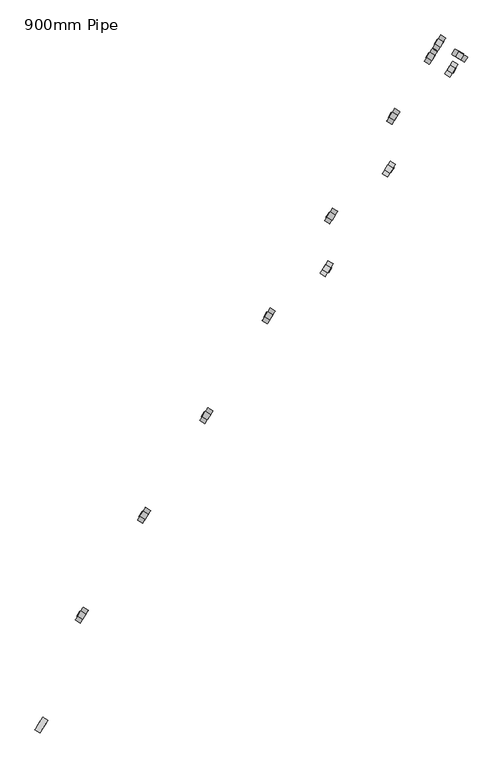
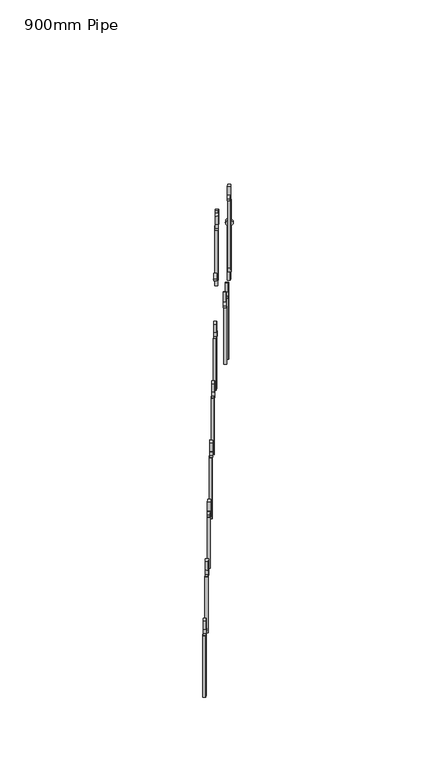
"""IFC4 building model written with IfcOpenShell, lengths in millimetres: railing geometry, 900mm Pipe."""

from ifc_helpers import new_model, si_unit, point, frame, frame_2d, origin, place, context, project, spatial, polyline, circle_curve, trimmed, segment, composite_curve, outline, extrude, source, transform, mapped, element, save


def railing_900mm_pipe_e0949c61(model_context):
    return source(origin(), model_context, "Body", "SweptSolid", [
        extrude(outline(composite_curve([segment(trimmed(circle_curve(frame_2d((0.0, -31.75)), 31.75), [point((0.0, -63.5))], [point((0.0, 0.0))], False, "CARTESIAN"), True, "CONTINUOUS"), segment(trimmed(circle_curve(frame_2d((0.0, -31.75)), 31.75), [point((0.0, 0.0))], [point((0.0, -63.5))], False, "CARTESIAN"), True, "CONTINUOUS")], self_intersect=False), holes=[composite_curve([segment(trimmed(circle_curve(frame_2d((0.0, -31.75)), 12.7), [point((0.0, -44.45))], [point((0.0, -19.05))], True, "CARTESIAN"), True, "CONTINUOUS"), segment(trimmed(circle_curve(frame_2d((0.0, -31.75)), 12.7), [point((0.0, -19.05))], [point((0.0, -44.45))], True, "CARTESIAN"), True, "CONTINUOUS")], self_intersect=False)]), frame((47195.2119075, -51385.7704072, 6599.35), z_axis=(-0.8480480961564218, 0.5299192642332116, 0.0), x_axis=(0.0, 0.0, 1.0)), (0.0, 0.0, 1.0), 25.4),
        extrude(outline(polyline([(47167.9515703, -51387.4557151), (47189.4919919, -51400.9156644), (47176.0320426, -51422.4560861), (47154.491621, -51408.9961368), (47167.9515703, -51387.4557151)])), frame((0.0, 0.0, 6000.0), z_axis=(0.0, 0.0, 1.0), x_axis=(1.0, 0.0, 0.0)), (0.0, 0.0, 1.0), 567.6),
        extrude(outline(polyline([(317.5, 0.0), (317.5, -25.4), (234.95, -25.4), (222.25, 0.0), (317.5, 0.0)])), frame((47171.6569962, -51423.4661451, 6948.6), z_axis=(-0.8480480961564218, 0.5299192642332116, 0.0), x_axis=(0.0, 0.0, -1.0)), (0.0, 0.0, 1.0), 25.4),
        extrude(outline(composite_curve([segment(trimmed(circle_curve(frame_2d((0.0, -31.75)), 31.75), [point((0.0, -63.5))], [point((0.0, 0.0))], False, "CARTESIAN"), True, "CONTINUOUS"), segment(trimmed(circle_curve(frame_2d((0.0, -31.75)), 31.75), [point((0.0, 0.0))], [point((0.0, -63.5))], False, "CARTESIAN"), True, "CONTINUOUS")], self_intersect=False), holes=[composite_curve([segment(trimmed(circle_curve(frame_2d((0.0, -31.75)), 12.7), [point((0.0, -44.4499999))], [point((0.0, -19.05))], True, "CARTESIAN"), True, "CONTINUOUS"), segment(trimmed(circle_curve(frame_2d((0.0, -31.75)), 12.7), [point((0.0, -19.05))], [point((0.0, -44.4499999))], True, "CARTESIAN"), True, "CONTINUOUS")], self_intersect=False)]), frame((47460.1715397, -50961.7463592, 6349.35), z_axis=(-0.8480480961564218, 0.5299192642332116, 0.0), x_axis=(0.0, 0.0, 1.0)), (0.0, 0.0, 1.0), 25.4),
        extrude(outline(polyline([(47432.9112024, -50963.431667), (47454.451624, -50976.8916164), (47440.9916747, -50998.432038), (47419.4512531, -50984.9720887), (47432.9112024, -50963.431667)])), frame((0.0, 0.0, 5700.0), z_axis=(0.0, 0.0, 1.0), x_axis=(1.0, 0.0, 0.0)), (0.0, 0.0, 1.0), 617.6),
        extrude(outline(polyline([(317.5, 0.0), (317.5, -25.4), (234.95, -25.4), (222.25, 0.0), (317.5, 0.0)])), frame((47436.6166284, -50999.442097, 6698.6), z_axis=(-0.8480480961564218, 0.5299192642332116, 0.0), x_axis=(0.0, 0.0, -1.0)), (0.0, 0.0, 1.0), 25.4),
        extrude(outline(composite_curve([segment(trimmed(circle_curve(frame_2d((0.0, -31.75)), 31.75), [point((0.0, -63.5))], [point((0.0, 0.0))], False, "CARTESIAN"), True, "CONTINUOUS"), segment(trimmed(circle_curve(frame_2d((0.0, -31.75)), 31.75), [point((0.0, 0.0))], [point((0.0, -63.5))], False, "CARTESIAN"), True, "CONTINUOUS")], self_intersect=False), holes=[composite_curve([segment(trimmed(circle_curve(frame_2d((0.0, -31.75)), 12.7), [point((0.0, -44.4499999))], [point((0.0, -19.05))], True, "CARTESIAN"), True, "CONTINUOUS"), segment(trimmed(circle_curve(frame_2d((0.0, -31.75)), 12.7), [point((0.0, -19.05))], [point((0.0, -44.4499999))], True, "CARTESIAN"), True, "CONTINUOUS")], self_intersect=False)]), frame((47445.6493685, -50791.7140474, 5799.35), z_axis=(-0.8480480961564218, 0.5299192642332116, 0.0), x_axis=(0.0, 0.0, -1.0)), (0.0, 0.0, 1.0), 25.4),
        extrude(outline(polyline([(47451.3692841, -50776.5687902), (47429.8288625, -50763.1088409), (47443.2888118, -50741.5684193), (47464.8292334, -50755.0283686), (47451.3692841, -50776.5687902)])), frame((0.0, 0.0, 5250.0), z_axis=(0.0, 0.0, 1.0), x_axis=(1.0, 0.0, 0.0)), (0.0, 0.0, 1.0), 517.6),
        extrude(outline(polyline([(317.5, 0.0), (317.5, -25.4), (222.25, -25.4), (234.95, 0.0), (317.5, 0.0)])), frame((47455.7443305, -50775.5587312, 6148.6), z_axis=(-0.8480480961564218, 0.5299192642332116, 0.0), x_axis=(0.0, 0.0, -1.0)), (0.0, 0.0, 1.0), 25.4),
        extrude(outline(composite_curve([segment(trimmed(circle_curve(frame_2d((0.0, -31.7499999)), 31.75), [point((0.0, -63.5))], [point((0.0, 0.0))], False, "CARTESIAN"), True, "CONTINUOUS"), segment(trimmed(circle_curve(frame_2d((0.0, -31.7499999)), 31.75), [point((0.0, 0.0))], [point((0.0, -63.5))], False, "CARTESIAN"), True, "CONTINUOUS")], self_intersect=False), holes=[composite_curve([segment(trimmed(circle_curve(frame_2d((0.0, -31.7499999)), 12.7), [point((0.0, -44.45))], [point((0.0, -19.05))], True, "CARTESIAN"), True, "CONTINUOUS"), segment(trimmed(circle_curve(frame_2d((0.0, -31.7499999)), 12.7), [point((0.0, -19.05))], [point((0.0, -44.45))], True, "CARTESIAN"), True, "CONTINUOUS")], self_intersect=False)]), frame((47180.6897364, -51215.7380955, 5549.35), z_axis=(-0.8480480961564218, 0.5299192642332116, 0.0), x_axis=(0.0, 0.0, -1.0)), (0.0, 0.0, 1.0), 25.4),
        extrude(outline(polyline([(47186.409652, -51200.5928383), (47164.8692304, -51187.132889), (47178.3291797, -51165.5924674), (47199.8696013, -51179.0524167), (47186.409652, -51200.5928383)])), frame((0.0, 0.0, 4950.0), z_axis=(0.0, 0.0, 1.0), x_axis=(1.0, 0.0, 0.0)), (0.0, 0.0, 1.0), 567.6),
        extrude(outline(polyline([(317.5, 0.0), (317.5, -25.4), (222.25, -25.4), (234.95, 0.0), (317.5, 0.0)])), frame((47190.7846984, -51199.5827793, 5898.6), z_axis=(-0.8480480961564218, 0.5299192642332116, 0.0), x_axis=(0.0, 0.0, -1.0)), (0.0, 0.0, 1.0), 25.4),
        extrude(outline(composite_curve([segment(trimmed(circle_curve(frame_2d((0.0, -31.75)), 31.75), [point((0.0, -63.5))], [point((0.0, 0.0))], False, "CARTESIAN"), True, "CONTINUOUS"), segment(trimmed(circle_curve(frame_2d((0.0, -31.75)), 31.75), [point((0.0, 0.0))], [point((0.0, -63.5))], False, "CARTESIAN"), True, "CONTINUOUS")], self_intersect=False), holes=[composite_curve([segment(trimmed(circle_curve(frame_2d((0.0, -31.75)), 12.7), [point((0.0, -44.45))], [point((0.0, -19.05))], True, "CARTESIAN"), True, "CONTINUOUS"), segment(trimmed(circle_curve(frame_2d((0.0, -31.75)), 12.7), [point((0.0, -19.05))], [point((0.0, -44.45))], True, "CARTESIAN"), True, "CONTINUOUS")], self_intersect=False)]), frame((46915.7301043, -51639.7621436, 5299.35), z_axis=(-0.8480480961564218, 0.5299192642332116, 0.0), x_axis=(0.0, 0.0, -1.0)), (0.0, 0.0, 1.0), 25.4),
        extrude(outline(polyline([(46921.4500199, -51624.6168864), (46899.9095983, -51611.1569371), (46913.3695476, -51589.6165154), (46934.9099692, -51603.0764648), (46921.4500199, -51624.6168864)])), frame((0.0, 0.0, 4650.0), z_axis=(0.0, 0.0, 1.0), x_axis=(1.0, 0.0, 0.0)), (0.0, 0.0, 1.0), 617.6),
        extrude(outline(polyline([(317.5, 0.0), (317.5, -25.4), (222.25, -25.4), (234.95, 0.0), (317.5, 0.0)])), frame((46925.8250663, -51623.6068274, 5648.6), z_axis=(-0.8480480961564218, 0.5299192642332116, 0.0), x_axis=(0.0, 0.0, -1.0)), (0.0, 0.0, 1.0), 25.4),
        extrude(outline(composite_curve([segment(trimmed(circle_curve(frame_2d((0.0, -31.75)), 31.75), [point((0.0, -63.5))], [point((0.0, 0.0))], False, "CARTESIAN"), True, "CONTINUOUS"), segment(trimmed(circle_curve(frame_2d((0.0, -31.75)), 31.75), [point((0.0, 0.0))], [point((0.0, -63.5))], False, "CARTESIAN"), True, "CONTINUOUS")], self_intersect=False), holes=[composite_curve([segment(trimmed(circle_curve(frame_2d((0.0, -31.75)), 12.7), [point((0.0, -44.45))], [point((0.0, -19.0500001))], True, "CARTESIAN"), True, "CONTINUOUS"), segment(trimmed(circle_curve(frame_2d((0.0, -31.75)), 12.7), [point((0.0, -19.0500001))], [point((0.0, -44.45))], True, "CARTESIAN"), True, "CONTINUOUS")], self_intersect=False)]), frame((46650.7704722, -52063.7861917, 5049.35), z_axis=(-0.8480480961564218, 0.5299192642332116, 0.0), x_axis=(0.0, 0.0, -1.0)), (0.0, 0.0, 1.0), 25.4),
        extrude(outline(polyline([(46656.4903878, -52048.6409345), (46634.9499661, -52035.1809852), (46648.4099155, -52013.6405635), (46669.9503371, -52027.1005128), (46656.4903878, -52048.6409345)])), frame((0.0, 0.0, 4500.0), z_axis=(0.0, 0.0, 1.0), x_axis=(1.0, 0.0, 0.0)), (0.0, 0.0, 1.0), 517.6),
        extrude(outline(polyline([(317.5, 0.0), (317.5, -25.4), (222.25, -25.4), (234.95, 0.0), (317.5, 0.0)])), frame((46660.8654342, -52047.6308754, 5398.6), z_axis=(-0.8480480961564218, 0.5299192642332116, 0.0), x_axis=(0.0, 0.0, -1.0)), (0.0, 0.0, 1.0), 25.4),
        extrude(outline(composite_curve([segment(trimmed(circle_curve(frame_2d((0.0, -31.7499999)), 31.75), [point((0.0, -63.5))], [point((0.0, 0.0))], False, "CARTESIAN"), True, "CONTINUOUS"), segment(trimmed(circle_curve(frame_2d((0.0, -31.7499999)), 31.75), [point((0.0, 0.0))], [point((0.0, -63.5))], False, "CARTESIAN"), True, "CONTINUOUS")], self_intersect=False), holes=[composite_curve([segment(trimmed(circle_curve(frame_2d((0.0, -31.7499999)), 12.7), [point((0.0, -44.4499999))], [point((0.0, -19.0499999))], True, "CARTESIAN"), True, "CONTINUOUS"), segment(trimmed(circle_curve(frame_2d((0.0, -31.7499999)), 12.7), [point((0.0, -19.0499999))], [point((0.0, -44.4499999))], True, "CARTESIAN"), True, "CONTINUOUS")], self_intersect=False)]), frame((46385.8108401, -52487.8102397, 4799.35), z_axis=(-0.8480480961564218, 0.5299192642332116, 0.0), x_axis=(0.0, 0.0, -1.0)), (0.0, 0.0, 1.0), 25.4),
        extrude(outline(polyline([(46391.5307557, -52472.6649826), (46369.990334, -52459.2050332), (46383.4502833, -52437.6646116), (46404.990705, -52451.1245609), (46391.5307557, -52472.6649826)])), frame((0.0, 0.0, 4200.0), z_axis=(0.0, 0.0, 1.0), x_axis=(1.0, 0.0, 0.0)), (0.0, 0.0, 1.0), 567.6),
        extrude(outline(polyline([(317.5, 0.0), (317.5, -25.4), (222.25, -25.4), (234.95, 0.0), (317.5, 0.0)])), frame((46395.905802, -52471.6549235, 5148.6), z_axis=(-0.8480480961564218, 0.5299192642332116, 0.0), x_axis=(0.0, 0.0, -1.0)), (0.0, 0.0, 1.0), 25.4),
        extrude(outline(composite_curve([segment(trimmed(circle_curve(frame_2d((0.0, -31.75)), 31.75), [point((0.0, -63.5))], [point((0.0, 0.0))], False, "CARTESIAN"), True, "CONTINUOUS"), segment(trimmed(circle_curve(frame_2d((0.0, -31.75)), 31.75), [point((0.0, 0.0))], [point((0.0, -63.5))], False, "CARTESIAN"), True, "CONTINUOUS")], self_intersect=False), holes=[composite_curve([segment(trimmed(circle_curve(frame_2d((0.0, -31.75)), 12.7), [point((0.0, -44.4499999))], [point((0.0, -19.05))], True, "CARTESIAN"), True, "CONTINUOUS"), segment(trimmed(circle_curve(frame_2d((0.0, -31.75)), 12.7), [point((0.0, -19.05))], [point((0.0, -44.4499999))], True, "CARTESIAN"), True, "CONTINUOUS")], self_intersect=False)]), frame((46120.8512079, -52911.8342878, 4549.35), z_axis=(-0.8480480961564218, 0.5299192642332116, 0.0), x_axis=(0.0, 0.0, -1.0)), (0.0, 0.0, 1.0), 25.4),
        extrude(outline(polyline([(46126.5711235, -52896.6890306), (46105.0307019, -52883.2290813), (46118.4906512, -52861.6886597), (46140.0310729, -52875.148609), (46126.5711235, -52896.6890306)])), frame((0.0, 0.0, 3900.0), z_axis=(0.0, 0.0, 1.0), x_axis=(1.0, 0.0, 0.0)), (0.0, 0.0, 1.0), 617.6),
        extrude(outline(polyline([(317.5, 0.0), (317.5, -25.4), (222.25, -25.4), (234.95, 0.0), (317.5, 0.0)])), frame((46130.9461699, -52895.6789716, 4898.6), z_axis=(-0.8480480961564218, 0.5299192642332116, 0.0), x_axis=(0.0, 0.0, -1.0)), (0.0, 0.0, 1.0), 25.4),
        extrude(outline(composite_curve([segment(trimmed(circle_curve(frame_2d((0.0, -31.75)), 31.75), [point((0.0, -63.5))], [point((0.0, 0.0))], False, "CARTESIAN"), True, "CONTINUOUS"), segment(trimmed(circle_curve(frame_2d((0.0, -31.75)), 31.75), [point((0.0, 0.0))], [point((0.0, -63.5))], False, "CARTESIAN"), True, "CONTINUOUS")], self_intersect=False), holes=[composite_curve([segment(trimmed(circle_curve(frame_2d((0.0, -31.75)), 12.7), [point((0.0, -44.45))], [point((0.0, -19.05))], True, "CARTESIAN"), True, "CONTINUOUS"), segment(trimmed(circle_curve(frame_2d((0.0, -31.75)), 12.7), [point((0.0, -19.05))], [point((0.0, -44.45))], True, "CARTESIAN"), True, "CONTINUOUS")], self_intersect=False)]), frame((47725.1311718, -50537.7223111, 6979.35), z_axis=(-0.8480480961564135, 0.5299192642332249, 0.0), x_axis=(0.0, 0.0, 1.0)), (0.0, 0.0, 1.0), 25.4),
        extrude(outline(polyline([(0.0, -25.4), (0.0, 0.0), (676.5249835, 0.0), (732.7250275, -25.4), (0.0, -25.4)])), frame((47705.9513068, -50574.4079899, 6947.6), z_axis=(-0.8480480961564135, 0.5299192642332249, 0.0), x_axis=(0.0, 0.0, -1.0)), (0.0, 0.0, 1.0), 25.4),
        extrude(outline(polyline([(47715.0362098, -50553.8776273), (47701.5762605, -50575.418049), (47680.0358388, -50561.9580996), (47693.4957881, -50540.417678), (47715.0362098, -50553.8776273)])), frame((0.0, 0.0, 7011.1), z_axis=(0.0, 0.0, 1.0), x_axis=(1.0, 0.0, 0.0)), (0.0, 0.0, 1.0), 88.9),
        extrude(outline(composite_curve([segment(trimmed(circle_curve(frame_2d((0.0, -31.75)), 31.75), [point((0.0, -63.5))], [point((0.0, 0.0))], False, "CARTESIAN"), True, "CONTINUOUS"), segment(trimmed(circle_curve(frame_2d((0.0, -31.75)), 31.75), [point((0.0, 0.0))], [point((0.0, -63.5))], False, "CARTESIAN"), True, "CONTINUOUS")], self_intersect=False), holes=[composite_curve([segment(trimmed(circle_curve(frame_2d((0.0, -31.75)), 12.7), [point((0.0, -44.45))], [point((0.0, -19.0500001))], True, "CARTESIAN"), True, "CONTINUOUS"), segment(trimmed(circle_curve(frame_2d((0.0, -31.75)), 12.7), [point((0.0, -19.0500001))], [point((0.0, -44.45))], True, "CARTESIAN"), True, "CONTINUOUS")], self_intersect=False)]), frame((47699.805626, -50494.3709542, 6679.35), z_axis=(0.529919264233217, 0.8480480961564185, 0.0), x_axis=(0.0, 0.0, -1.0)), (0.0, 0.0, 1.0), 25.4),
        extrude(outline(polyline([(47714.9508832, -50500.0908698), (47728.4108325, -50478.5504481), (47749.9512542, -50492.0103975), (47736.4913049, -50513.5508191), (47714.9508832, -50500.0908698)])), frame((0.0, 0.0, 6100.0), z_axis=(0.0, 0.0, 1.0), x_axis=(1.0, 0.0, 0.0)), (0.0, 0.0, 1.0), 547.6),
        extrude(outline(polyline([(47729.4208916, -50482.9254945), (47750.9613132, -50496.3854438), (47737.5013639, -50517.9258655), (47715.9609423, -50504.4659162), (47729.4208916, -50482.9254945)])), frame((0.0, 0.0, 6711.1), z_axis=(0.0, 0.0, 1.0), x_axis=(1.0, 0.0, 0.0)), (0.0, 0.0, 1.0), 88.9),
        extrude(outline(composite_curve([segment(trimmed(circle_curve(frame_2d((0.0, -31.7500001)), 31.75), [point((0.0, -63.5))], [point((0.0, 0.0))], False, "CARTESIAN"), True, "CONTINUOUS"), segment(trimmed(circle_curve(frame_2d((0.0, -31.7500001)), 31.75), [point((0.0, 0.0))], [point((0.0, -63.5))], False, "CARTESIAN"), True, "CONTINUOUS")], self_intersect=False), holes=[composite_curve([segment(trimmed(circle_curve(frame_2d((0.0, -31.7500001)), 12.7), [point((0.0, -44.45))], [point((0.0, -19.05))], True, "CARTESIAN"), True, "CONTINUOUS"), segment(trimmed(circle_curve(frame_2d((0.0, -31.7500001)), 12.7), [point((0.0, -19.05))], [point((0.0, -44.45))], True, "CARTESIAN"), True, "CONTINUOUS")], self_intersect=False)]), frame((47640.5502512, -50479.8074351, 6679.35), z_axis=(-0.848048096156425, 0.5299192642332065, 0.0), x_axis=(0.0, 0.0, -1.0)), (0.0, 0.0, 1.0), 25.4),
        extrude(outline(polyline([(47646.2701668, -50464.6621779), (47624.7297452, -50451.2022286), (47638.1896945, -50429.661807), (47659.7301162, -50443.1217563), (47646.2701668, -50464.6621779)])), frame((0.0, 0.0, 6100.0), z_axis=(0.0, 0.0, 1.0), x_axis=(1.0, 0.0, 0.0)), (0.0, 0.0, 1.0), 547.6),
        extrude(outline(polyline([(47629.1047916, -50450.1921696), (47642.5647409, -50428.6517479), (47664.1051625, -50442.1116972), (47650.6452132, -50463.6521189), (47629.1047916, -50450.1921696)])), frame((0.0, 0.0, 6711.1), z_axis=(0.0, 0.0, 1.0), x_axis=(1.0, 0.0, 0.0)), (0.0, 0.0, 1.0), 88.9),
        extrude(outline(composite_curve([segment(trimmed(circle_curve(frame_2d((0.0, -31.75)), 31.75), [point((0.0, -63.5))], [point((0.0, 0.0))], False, "CARTESIAN"), True, "CONTINUOUS"), segment(trimmed(circle_curve(frame_2d((0.0, -31.75)), 31.75), [point((0.0, 0.0))], [point((0.0, -63.5))], False, "CARTESIAN"), True, "CONTINUOUS")], self_intersect=False), holes=[composite_curve([segment(trimmed(circle_curve(frame_2d((0.0, -31.75)), 12.7), [point((0.0, -44.45))], [point((0.0, -19.05))], True, "CARTESIAN"), True, "CONTINUOUS"), segment(trimmed(circle_curve(frame_2d((0.0, -31.75)), 12.7), [point((0.0, -19.05))], [point((0.0, -44.45))], True, "CARTESIAN"), True, "CONTINUOUS")], self_intersect=False)]), frame((47604.6251478, -50537.2996186, 6679.35), z_axis=(-0.8480480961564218, 0.5299192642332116, 0.0), x_axis=(0.0, 0.0, -1.0)), (0.0, 0.0, 1.0), 25.4),
        extrude(outline(polyline([(0.0, -25.4), (0.0, 0.0), (555.5375, 0.0), (542.8375, -25.4), (0.0, -25.4)])), frame((47610.3450634, -50522.1543614, 6647.6), z_axis=(-0.8480480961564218, 0.5299192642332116, 0.0), x_axis=(0.0, 0.0, -1.0)), (0.0, 0.0, 1.0), 25.4),
        extrude(outline(polyline([(317.5, 0.0), (317.5, -25.4), (222.25, -25.4), (234.95, 0.0), (317.5, 0.0)])), frame((47614.7201098, -50521.1443024, 7028.6), z_axis=(-0.8480480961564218, 0.5299192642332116, 0.0), x_axis=(0.0, 0.0, -1.0)), (0.0, 0.0, 1.0), 25.4),
        extrude(outline(composite_curve([segment(trimmed(circle_curve(frame_2d((0.0, -31.7499999)), 31.75), [point((0.0, -63.5))], [point((0.0, 0.0))], False, "CARTESIAN"), True, "CONTINUOUS"), segment(trimmed(circle_curve(frame_2d((0.0, -31.7499999)), 31.75), [point((0.0, 0.0))], [point((0.0, -63.5))], False, "CARTESIAN"), True, "CONTINUOUS")], self_intersect=False), holes=[composite_curve([segment(trimmed(circle_curve(frame_2d((0.0, -31.7499999)), 12.7), [point((0.0, -44.45))], [point((0.0, -19.05))], True, "CARTESIAN"), True, "CONTINUOUS"), segment(trimmed(circle_curve(frame_2d((0.0, -31.7499999)), 12.7), [point((0.0, -19.05))], [point((0.0, -44.45))], True, "CARTESIAN"), True, "CONTINUOUS")], self_intersect=False)]), frame((45983.0215906, -53325.6804272, 8473.1), z_axis=(-0.8480480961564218, 0.5299192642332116, 0.0), x_axis=(0.0, 0.0, 1.0)), (0.0, 0.0, 1.0), 25.4),
    ])


if __name__ == "__main__":
    model = new_model("IFC4")
    model_context = context("Model", 3, world=origin())
    ifc_project = project(units=[si_unit("LENGTHUNIT", "METRE", prefix="MILLI")], contexts=[model_context])
    site = spatial("IfcSite", under=ifc_project)
    building = spatial("IfcBuilding", under=site)
    placement = place(None, origin())
    railing_900mm_pipe_shape = railing_900mm_pipe_e0949c61(model_context)
    element("IfcRailing", 1, ObjectType="900mm Pipe", at=placement, inside=building, context=model_context, shape_type="MappedRepresentation", body=[
        mapped(railing_900mm_pipe_shape, transform((0.0, 0.0, 0.0), x_axis=(1.0, 0.0, 0.0), y_axis=(0.0, 1.0, 0.0), z_axis=(0.0, 0.0, 1.0))),
    ])
    save(model, "model.ifc")
